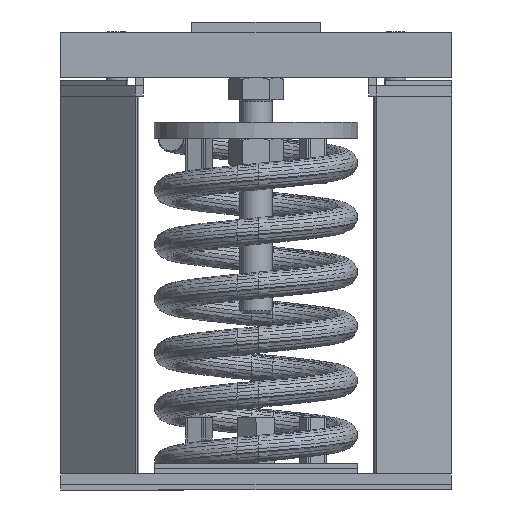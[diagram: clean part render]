
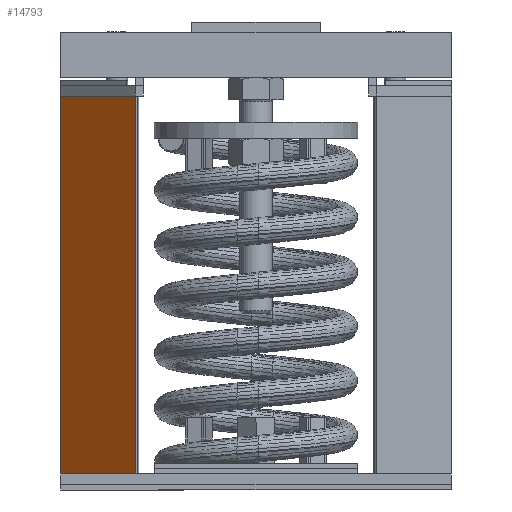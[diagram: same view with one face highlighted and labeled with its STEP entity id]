
A CAD part, front view. The second image highlights one B-rep face of the part: STEP entity #14793.
In plain terms, the highlighted planar face has unit normal (-0.707, -0.707, 0).
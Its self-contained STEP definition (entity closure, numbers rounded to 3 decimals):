
#2559=FACE_OUTER_BOUND('',#3600,.T.);
#3600=EDGE_LOOP('',(#9183,#9184,#9185,#9186));
#4782=LINE('',#18777,#5297);
#4784=LINE('',#18781,#5299);
#4785=LINE('',#18783,#5300);
#4786=LINE('',#18784,#5301);
#5297=VECTOR('',#16678,17.66);
#5299=VECTOR('',#16682,5.);
#5300=VECTOR('',#16683,17.66);
#5301=VECTOR('',#16684,5.);
#5812=VERTEX_POINT('',#18774);
#5813=VERTEX_POINT('',#18776);
#5814=VERTEX_POINT('',#18780);
#5815=VERTEX_POINT('',#18782);
#7052=EDGE_CURVE('',#5813,#5812,#4782,.T.);
#7054=EDGE_CURVE('',#5812,#5814,#4784,.T.);
#7055=EDGE_CURVE('',#5815,#5814,#4785,.T.);
#7056=EDGE_CURVE('',#5813,#5815,#4786,.T.);
#9183=ORIENTED_EDGE('',*,*,#7054,.T.);
#9184=ORIENTED_EDGE('',*,*,#7055,.F.);
#9185=ORIENTED_EDGE('',*,*,#7056,.F.);
#9186=ORIENTED_EDGE('',*,*,#7052,.T.);
#13427=PLANE('',#15875);
#14793=ADVANCED_FACE('',(#2559),#13427,.T.);
#15875=AXIS2_PLACEMENT_3D('',#18779,#16680,#16681);
#16678=DIRECTION('',(0.,0.,1.));
#16680=DIRECTION('center_axis',(-0.707,-0.707,0.));
#16681=DIRECTION('ref_axis',(0.,0.,-1.));
#16682=DIRECTION('',(-0.707,0.707,0.));
#16683=DIRECTION('',(0.,0.,1.));
#16684=DIRECTION('',(-0.707,0.707,0.));
#18774=CARTESIAN_POINT('',(-5.616,-3.536,18.41));
#18776=CARTESIAN_POINT('',(-5.616,-3.536,0.75));
#18777=CARTESIAN_POINT('',(-5.616,-3.536,0.75));
#18779=CARTESIAN_POINT('Origin',(-5.616,-3.536,0.75));
#18780=CARTESIAN_POINT('',(-9.152,0.,18.41));
#18781=CARTESIAN_POINT('',(-6.5,-2.652,18.41));
#18782=CARTESIAN_POINT('',(-9.152,0.,0.75));
#18783=CARTESIAN_POINT('',(-9.152,0.,0.75));
#18784=CARTESIAN_POINT('',(-6.5,-2.652,0.75));
